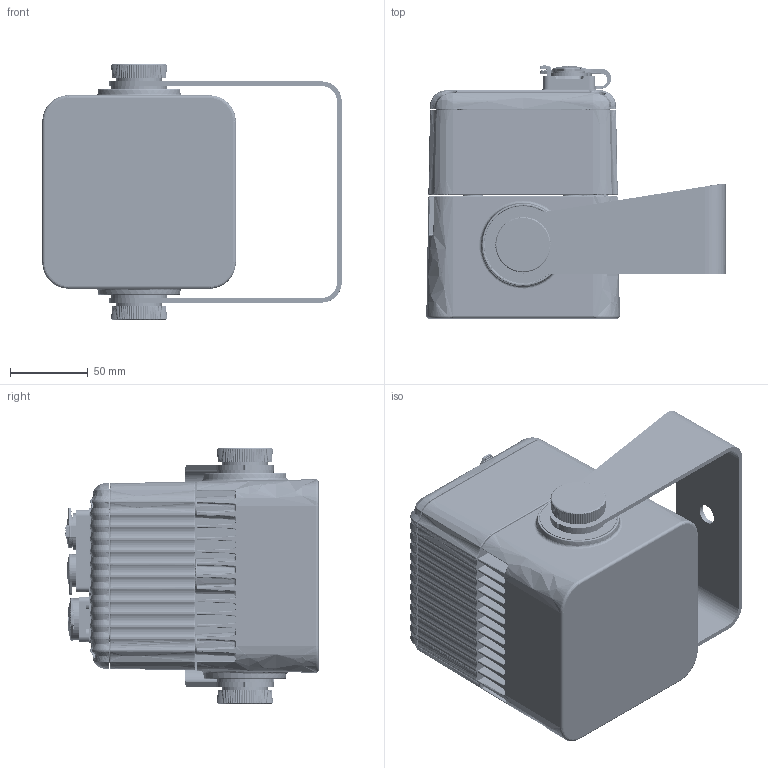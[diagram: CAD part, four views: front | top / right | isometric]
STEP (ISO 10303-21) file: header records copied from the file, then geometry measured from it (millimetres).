
FILE_DESCRIPTION(/* description */ ('Unknown'),/* implementation_level */ '2;1');
FILE_NAME(/* name */ 'Appoli S TS - Multi',/* time_stamp */ '2026-03-20T13:10:11+01:00',/* author */ ('Unknown'),/* organization */ ('Unknown'),/* preprocessor_version */ 'ST-DEVELOPER v20',/* originating_system */ 'Solid Edge',/* authorisation */ 'Unknown');
FILE_SCHEMA (('AUTOMOTIVE_DESIGN {1 0 10303 214 3 1 1}'));
Products named in the file (21): Appoli S TS - Multi; 11X40268 Rameno Appoli S; 19040204-01 Tøecí kroužek ramene; 11018311  犈lom鬳 Calumma; 11040400  犈lom鬳 Appoli; Housing Appoli S; 18710117 Šroub køížový zápustný M3x12; Zdrojová èást Appoli S; 19X20578 Aretaèní šroub Appoli M8; 1861xxxx Šroub šestihranný M8x30; 19020577 Aretaèní šroub Appoli; 13053497 Tìsnìní krytka Seetronic CNAC-MPX-LY IN; 18710086 Šroub køížový zápustný M3x10; 19040332-01 Tøecí kroužek Calumma; 13052776 Tìsnìní krytka IP65 DMX IN OUT; 13032370 PCB RB3637-V2.1.A.1 2x DMX 5pin IP; 13052774 Konektor Seetronic 5pin DMX IN OUT; 13052789 Plošný spoj RB3637-V2.1 2x DMX 5pin IP; 13050403 Faston plastový kryt 2,8 CT1004Z1; 13053496 Konektor Seetronic SAC3MPX LY IN; Kryt zdrojové èásti Appoli S
Assembly tree (27 placements, depth 3):
  Appoli S TS - Multi
    11X40268 Rameno Appoli S
    19040204-01 Tøecí kroužek ramene  x2
    11018311  犈lom鬳 Calumma
    11040400  犈lom鬳 Appoli
    Housing Appoli S
    18710117 Šroub køížový zápustný M3x12  x4
    Zdrojová èást Appoli S
    19X20578 Aretaèní šroub Appoli M8  x2
      1861xxxx Šroub šestihranný M8x30
      19020577 Aretaèní šroub Appoli
    13053497 Tìsnìní krytka Seetronic CNAC-MPX-LY IN
    18710086 Šroub køížový zápustný M3x10  x2
    19040332-01 Tøecí kroužek Calumma  x2
    13052776 Tìsnìní krytka IP65 DMX IN OUT
    13032370 PCB RB3637-V2.1.A.1 2x DMX 5pin IP
      13052774 Konektor Seetronic 5pin DMX IN OUT
      13052789 Plošný spoj RB3637-V2.1 2x DMX 5pin IP
      13050403 Faston plastový kryt 2,8 CT1004Z1
    13053496 Konektor Seetronic SAC3MPX LY IN
    Kryt zdrojové èásti Appoli S
Bounding box: 192.08 x 162.5 x 164 mm (x, y, z)
Volume: 2004298.6 mm3; surface area: 334132 mm2
Topology: 26 solids, 42 shells, 6766 faces, 17043 edges, 10343 vertices
Faces by surface type: bspline 2341, plane 2303, cylinder 1279, sphere 310, cone 308, torus 225
Full cylindrical faces by diameter (mm): 0.8 x7, 1 x5, 1.049 x1, 1.2 x10, 1.3 x10, 1.426 x1, 1.464 x1, 1.5 x17, 1.7 x1, 1.85 x1, 1.9 x5, 1.95 x5, 2 x2, 2.05 x1, 2.1 x6, 2.2 x5, 2.3 x5, 2.5 x12, 2.6 x6, 2.7 x4, 2.8 x2, 2.828 x1, 2.9 x10, 3 x9, 3.4 x2, 3.5 x8, 3.9 x2, 4 x1, 4.002 x1, 4.134 x1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
Entity records: 223280 total; most frequent: CARTESIAN_POINT 91348, ORIENTED_EDGE 27016, DIRECTION 21846, EDGE_CURVE 13508, VERTEX_POINT 8573, AXIS2_PLACEMENT_3D 8573, FACE_BOUND 6455, EDGE_LOOP 6450
